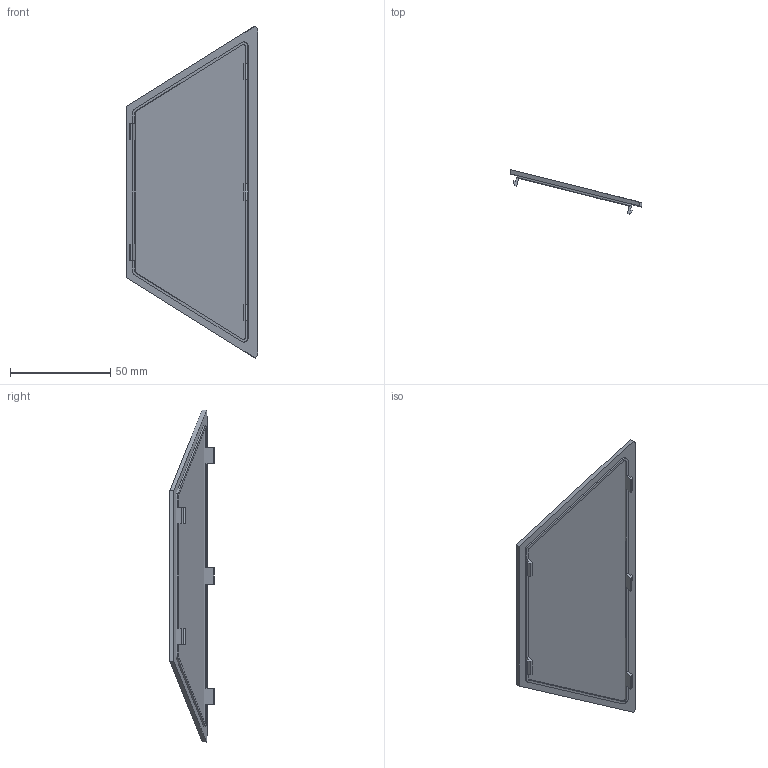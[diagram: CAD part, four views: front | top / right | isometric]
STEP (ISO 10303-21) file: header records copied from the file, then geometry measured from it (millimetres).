
FILE_DESCRIPTION((''),'2;1');
FILE_NAME('TOP_RSJ','2024-12-18T',('18137'),(''),'CREO PARAMETRIC BY PTC INC, 2016050','CREO PARAMETRIC BY PTC INC, 2016050','');
FILE_SCHEMA(('CONFIG_CONTROL_DESIGN'));
Length unit declared in the file: millimetre
Products named in the file (1): TOP_RSJ
Bounding box: 65.65 x 22.13 x 165.5 mm (x, y, z)
Volume: 14736.2 mm3; surface area: 20723.9 mm2
Topology: 1 solids, 1 shells, 150 faces, 371 edges, 234 vertices
Faces by surface type: plane 80, bspline 40, cylinder 30
Entity records: 7723 total; most frequent: CARTESIAN_POINT 4361, ORIENTED_EDGE 742, DIRECTION 581, EDGE_CURVE 371, VECTOR 249, LINE 249, VERTEX_POINT 234, AXIS2_PLACEMENT_3D 166
